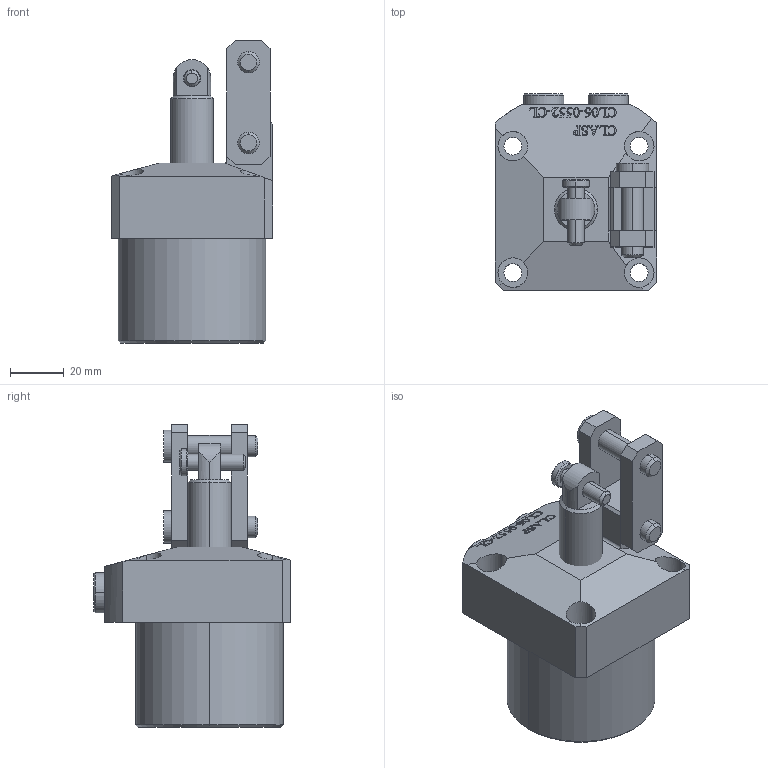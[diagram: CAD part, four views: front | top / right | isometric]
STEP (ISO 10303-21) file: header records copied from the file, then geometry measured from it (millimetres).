
FILE_DESCRIPTION (( 'STEP AP203' ), '1' );
FILE_NAME ('CL06-0552 CL.STEP', '2022-07-17T16:26:00', ( '' ), ( '' ), 'SwSTEP 2.0', 'SolidWorks 2017', '' );
FILE_SCHEMA (( 'CONFIG_CONTROL_DESIGN' ));
Length unit declared in the file: millimetre
Products named in the file (7): CLO6-0552 Part2 CL; CLO6-0552 Part6 CL; CLO6-0552 Part7 CL; CL06-0552 Part5 CL; CL06-0552 CL; CL06.-0552 CL Body; CLO6-0552 Part3 CL
Assembly tree (9 placements, depth 2):
  CL06-0552 CL
    CL06.-0552 CL Body
    CLO6-0552 Part3 CL
    CLO6-0552 Part2 CL  x2
    CLO6-0552 Part6 CL  x2
    CLO6-0552 Part7 CL
    CL06-0552 Part5 CL  x2
Bounding box: 60 x 73 x 112.5 mm (x, y, z)
Volume: 213602.4 mm3; surface area: 37328.7 mm2
Topology: 9 solids, 9 shells, 488 faces, 1269 edges, 832 vertices
Faces by surface type: plane 211, bspline 174, cylinder 73, cone 30
Entity records: 21638 total; most frequent: CARTESIAN_POINT 10822, ORIENTED_EDGE 2362, DIRECTION 1520, EDGE_CURVE 1181, VERTEX_POINT 778, LINE 676, VECTOR 676, EDGE_LOOP 501
